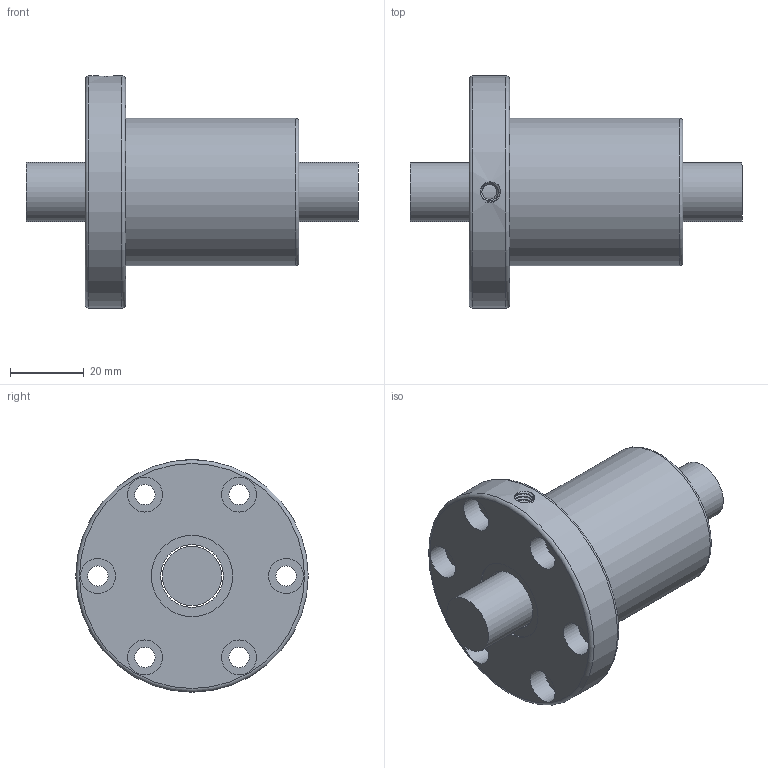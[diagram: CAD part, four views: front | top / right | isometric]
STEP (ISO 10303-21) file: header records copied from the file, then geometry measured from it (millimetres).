
FILE_DESCRIPTION (( 'STEP AP203' ), '1' );
FILE_NAME ('SFV01605-4.8.STEP', '2023-08-16T02:53:00', ( '' ), ( '' ), 'SwSTEP 2.0', 'SolidWorks 2022', '' );
FILE_SCHEMA (( 'CONFIG_CONTROL_DESIGN' ));
Length unit declared in the file: millimetre
Products named in the file (1): SFV01605-4.8
Bounding box: 90 x 63 x 63 mm (x, y, z)
Volume: 94591.8 mm3; surface area: 23310.1 mm2
Topology: 2 solids, 2 shells, 39 faces, 81 edges, 54 vertices
Faces by surface type: cylinder 20, plane 13, torus 3, bspline 2, cone 1
Full cylindrical faces by diameter (mm): 4 x1, 5.5 x6, 9.5 x6, 16 x1, 17 x1, 22 x1, 40 x1, 63 x1
Entity records: 2843 total; most frequent: CARTESIAN_POINT 2026, DIRECTION 158, ORIENTED_EDGE 104, EDGE_LOOP 85, AXIS2_PLACEMENT_3D 79, FACE_OUTER_BOUND 60, EDGE_CURVE 52, VERTEX_POINT 47
